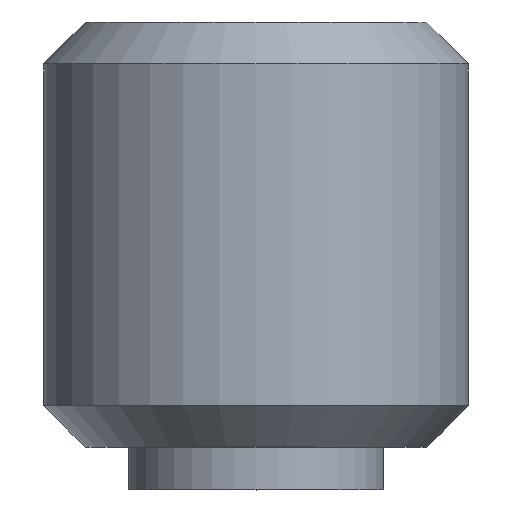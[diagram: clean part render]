
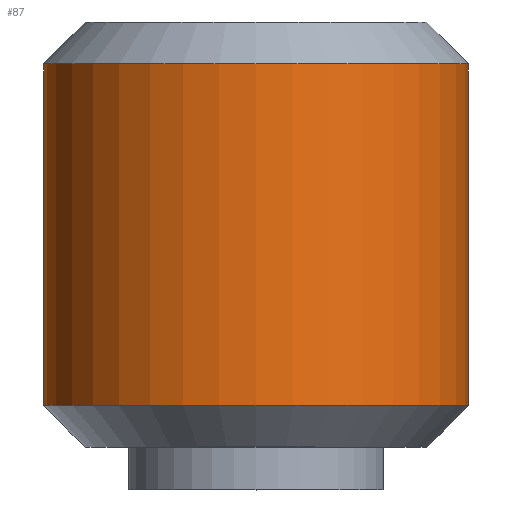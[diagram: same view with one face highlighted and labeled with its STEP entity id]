
A CAD part, top view. The second image highlights one B-rep face of the part: STEP entity #87.
In plain terms, the highlighted cylindrical face has radius 2.5 mm (diameter 5 mm), a full revolution.
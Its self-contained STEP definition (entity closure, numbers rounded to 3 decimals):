
#87 = ADVANCED_FACE( '', ( #118, #119 ), #120, .T. );
#118 = FACE_OUTER_BOUND( '', #152, .T. );
#119 = FACE_OUTER_BOUND( '', #153, .T. );
#120 = CYLINDRICAL_SURFACE( '', #154, 2.5 );
#152 = EDGE_LOOP( '', ( #238 ) );
#153 = EDGE_LOOP( '', ( #239 ) );
#154 = AXIS2_PLACEMENT_3D( '', #240, #241, #242 );
#238 = ORIENTED_EDGE( '', *, *, #270, .F. );
#239 = ORIENTED_EDGE( '', *, *, #271, .T. );
#240 = CARTESIAN_POINT( '', ( 0., 0., 0. ) );
#241 = DIRECTION( '', ( 0., 1., 0. ) );
#242 = DIRECTION( '', ( 0., 0., -1. ) );
#270 = EDGE_CURVE( '', #310, #310, #311, .T. );
#271 = EDGE_CURVE( '', #312, #312, #313, .T. );
#310 = VERTEX_POINT( '', #370 );
#311 = CIRCLE( '', #371, 2.5 );
#312 = VERTEX_POINT( '', #372 );
#313 = CIRCLE( '', #373, 2.5 );
#370 = CARTESIAN_POINT( '', ( 0., 0.991, -2.5 ) );
#371 = AXIS2_PLACEMENT_3D( '', #404, #405, #406 );
#372 = CARTESIAN_POINT( '', ( 0., 5.01, -2.5 ) );
#373 = AXIS2_PLACEMENT_3D( '', #407, #408, #409 );
#404 = CARTESIAN_POINT( '', ( 0., 0.991, 0. ) );
#405 = DIRECTION( '', ( 0., -1., 0. ) );
#406 = DIRECTION( '', ( 0., 0., -1. ) );
#407 = CARTESIAN_POINT( '', ( 0., 5.01, 0. ) );
#408 = DIRECTION( '', ( 0., -1., 0. ) );
#409 = DIRECTION( '', ( 0., 0., -1. ) );
